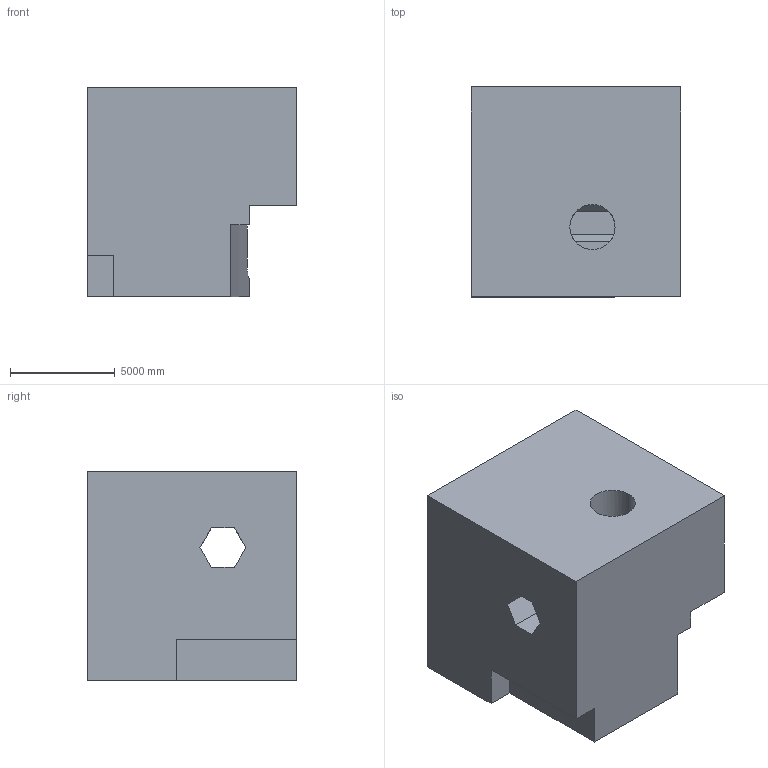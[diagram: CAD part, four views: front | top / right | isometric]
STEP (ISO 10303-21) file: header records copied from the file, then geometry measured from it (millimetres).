
FILE_DESCRIPTION (( 'STEP AP203' ), '1' );
FILE_NAME ('594.STEP', '2022-07-29T11:59:40', ( 'user' ), ( '' ), 'SwSTEP 2.0', 'SolidWorks 2021', '' );
FILE_SCHEMA (( 'CONFIG_CONTROL_DESIGN' ));
Length unit declared in the file: centimetre
Products named in the file (1): 594
Bounding box: 10000 x 10000 x 10000 mm (x, y, z)
Volume: 819489600275.6 mm3; surface area: 651529191.2 mm2
Topology: 1 solids, 1 shells, 29 faces, 84 edges, 56 vertices
Faces by surface type: plane 25, cylinder 4
Entity records: 1032 total; most frequent: CARTESIAN_POINT 191, ORIENTED_EDGE 168, DIRECTION 146, EDGE_CURVE 84, VECTOR 68, LINE 68, VERTEX_POINT 56, AXIS2_PLACEMENT_3D 39
